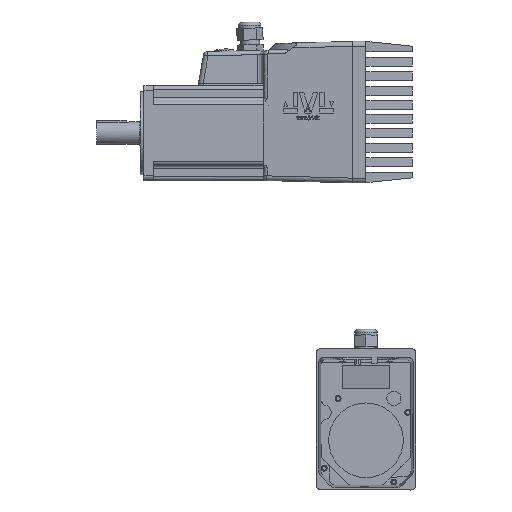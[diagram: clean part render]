
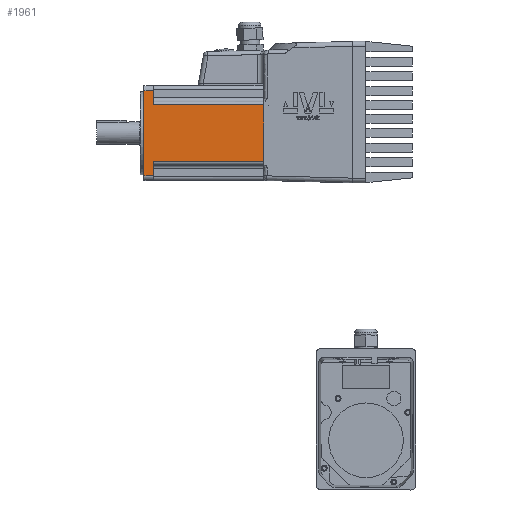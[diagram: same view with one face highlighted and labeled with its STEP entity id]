
A CAD part, left-side view. The second image highlights one B-rep face of the part: STEP entity #1961.
In plain terms, the highlighted planar face has unit normal (-1, 0, 0) as drawn and (0, 1, 0) by its records, which use the part's own axes.
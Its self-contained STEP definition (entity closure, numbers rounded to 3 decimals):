
#1961 = ADVANCED_FACE( '', ( #4521 ), #4522, .T. );
#4521 = FACE_OUTER_BOUND( '', #7890, .T. );
#4522 = PLANE( '', #7891 );
#7890 = EDGE_LOOP( '', ( #14274, #14275, #14276, #14277, #14278, #14279, #14280, #14281 ) );
#7891 = AXIS2_PLACEMENT_3D( '', #14282, #14283, #14284 );
#14274 = ORIENTED_EDGE( '', *, *, #21082, .T. );
#14275 = ORIENTED_EDGE( '', *, *, #20281, .F. );
#14276 = ORIENTED_EDGE( '', *, *, #21194, .F. );
#14277 = ORIENTED_EDGE( '', *, *, #20135, .T. );
#14278 = ORIENTED_EDGE( '', *, *, #21195, .F. );
#14279 = ORIENTED_EDGE( '', *, *, #20696, .T. );
#14280 = ORIENTED_EDGE( '', *, *, #21066, .F. );
#14281 = ORIENTED_EDGE( '', *, *, #20599, .F. );
#14282 = CARTESIAN_POINT( '', ( 40.328, 40., 24. ) );
#14283 = DIRECTION( '', ( 0., 1., 0. ) );
#14284 = DIRECTION( '', ( 1., 0., 0. ) );
#20135 = EDGE_CURVE( '', #24361, #24359, #24362, .T. );
#20281 = EDGE_CURVE( '', #24589, #24590, #24591, .T. );
#20599 = EDGE_CURVE( '', #25084, #25086, #25087, .T. );
#20696 = EDGE_CURVE( '', #25230, #25231, #25232, .T. );
#21066 = EDGE_CURVE( '', #25086, #25231, #25752, .T. );
#21082 = EDGE_CURVE( '', #25084, #24590, #25774, .T. );
#21194 = EDGE_CURVE( '', #24361, #24589, #25924, .T. );
#21195 = EDGE_CURVE( '', #25230, #24359, #25925, .T. );
#24359 = VERTEX_POINT( '', #30492 );
#24361 = VERTEX_POINT( '', #30494 );
#24362 = LINE( '', #30495, #30496 );
#24589 = VERTEX_POINT( '', #30856 );
#24590 = VERTEX_POINT( '', #30857 );
#24591 = LINE( '', #30858, #30859 );
#25084 = VERTEX_POINT( '', #31652 );
#25086 = VERTEX_POINT( '', #31654 );
#25087 = LINE( '', #31655, #31656 );
#25230 = VERTEX_POINT( '', #31963 );
#25231 = VERTEX_POINT( '', #31964 );
#25232 = LINE( '', #31965, #31966 );
#25752 = LINE( '', #32804, #32805 );
#25774 = LINE( '', #32834, #32835 );
#25924 = LINE( '', #33101, #33102 );
#25925 = LINE( '', #33103, #33104 );
#30492 = CARTESIAN_POINT( '', ( 133.328, 40., 24. ) );
#30494 = CARTESIAN_POINT( '', ( 40.328, 40., 24. ) );
#30495 = CARTESIAN_POINT( '', ( 40.328, 40., 24. ) );
#30496 = VECTOR( '', #36663, 1000. );
#30856 = CARTESIAN_POINT( '', ( 40.328, 40., -24. ) );
#30857 = CARTESIAN_POINT( '', ( 133.328, 40., -24. ) );
#30858 = CARTESIAN_POINT( '', ( 40.328, 40., -24. ) );
#30859 = VECTOR( '', #36809, 1000. );
#31652 = CARTESIAN_POINT( '', ( 133.328, 40., -36. ) );
#31654 = CARTESIAN_POINT( '', ( 141.328, 40., -36. ) );
#31655 = CARTESIAN_POINT( '', ( 106.328, 40., -36. ) );
#31656 = VECTOR( '', #37112, 1000. );
#31963 = CARTESIAN_POINT( '', ( 133.328, 40., 36. ) );
#31964 = CARTESIAN_POINT( '', ( 141.328, 40., 36. ) );
#31965 = CARTESIAN_POINT( '', ( 106.328, 40., 36. ) );
#31966 = VECTOR( '', #37187, 1000. );
#32804 = CARTESIAN_POINT( '', ( 141.328, 40., -36. ) );
#32805 = VECTOR( '', #37487, 1000. );
#32834 = CARTESIAN_POINT( '', ( 133.328, 40., -36. ) );
#32835 = VECTOR( '', #37507, 1000. );
#33101 = CARTESIAN_POINT( '', ( 40.328, 40., 24. ) );
#33102 = VECTOR( '', #37602, 1000. );
#33103 = CARTESIAN_POINT( '', ( 133.328, 40., 36. ) );
#33104 = VECTOR( '', #37603, 1000. );
#36663 = DIRECTION( '', ( 1., 0., 0. ) );
#36809 = DIRECTION( '', ( 1., 0., 0. ) );
#37112 = DIRECTION( '', ( 1., 0., 0. ) );
#37187 = DIRECTION( '', ( 1., 0., 0. ) );
#37487 = DIRECTION( '', ( 0., 0., 1. ) );
#37507 = DIRECTION( '', ( 0., 0., 1. ) );
#37602 = DIRECTION( '', ( 0., 0., -1. ) );
#37603 = DIRECTION( '', ( 0., 0., -1. ) );
